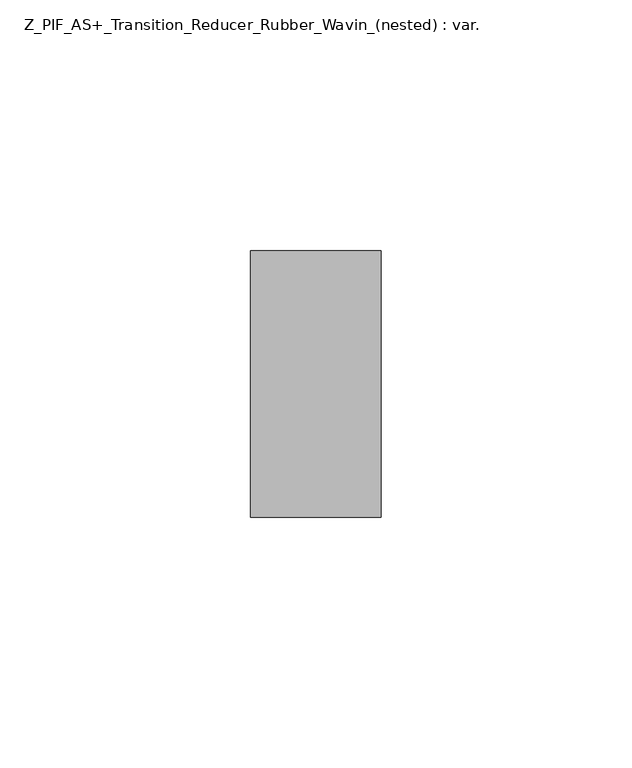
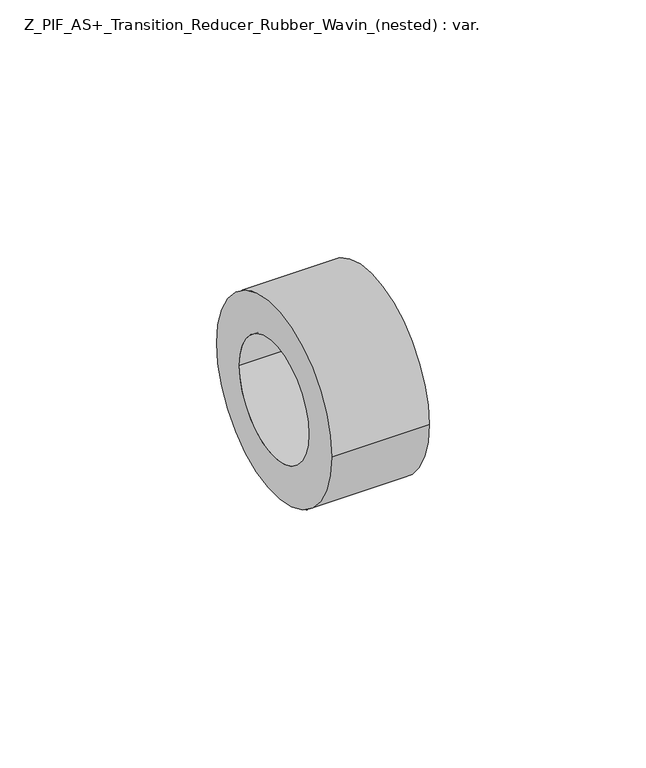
"""IFC4 building model written with IfcOpenShell, lengths in millimetres: pipe fitting geometry, Z_PIF_AS+_Transition_Reducer_Rubber_Wavin_(nested) : var.."""

from ifc_helpers import new_model, si_unit, point, frame, origin, origin_2d, place, context, project, spatial, circle_curve, trimmed, segment, composite_curve, outline, extrude, source, transform, mapped, element, save


def z_pif_as_transition_reducer_rubber_wavin_nested_var_23693647(model_context):
    return source(origin(), model_context, "Body", "SweptSolid", [
        extrude(outline(composite_curve([segment(trimmed(circle_curve(origin_2d(), 26.5), [point((-26.5, 0.0))], [point((26.5, 0.0))], False, "CARTESIAN"), True, "CONTINUOUS"), segment(trimmed(circle_curve(origin_2d(), 26.5), [point((26.5, 0.0))], [point((-26.5, 0.0))], False, "CARTESIAN"), True, "CONTINUOUS")], self_intersect=False), holes=[composite_curve([segment(trimmed(circle_curve(origin_2d(), 16.0), [point((-16.0, 0.0))], [point((16.0, 0.0))], True, "CARTESIAN"), True, "CONTINUOUS"), segment(trimmed(circle_curve(origin_2d(), 16.0), [point((16.0, 0.0))], [point((-16.0, 0.0))], True, "CARTESIAN"), True, "CONTINUOUS")], self_intersect=False)]), frame((0.0, 0.0, 0.0), z_axis=(1.0, 0.0, 0.0), x_axis=(0.0, 1.0, 0.0)), (0.0, 0.0, 1.0), 26.0),
    ])


if __name__ == "__main__":
    model = new_model("IFC4")
    model_context = context("Model", 3, world=origin())
    ifc_project = project(units=[si_unit("LENGTHUNIT", "METRE", prefix="MILLI")], contexts=[model_context])
    site = spatial("IfcSite", under=ifc_project)
    building = spatial("IfcBuilding", under=site)
    placement = place(None, origin())
    z_pif_as_transition_reducer_rubber_wavin_nested_var_shape = z_pif_as_transition_reducer_rubber_wavin_nested_var_23693647(model_context)
    element("IfcPipeFitting", 1, ObjectType="Z_PIF_AS+_Transition_Reducer_Rubber_Wavin_(nested) : var.", at=placement, inside=building, context=model_context, shape_type="MappedRepresentation", body=[
        mapped(z_pif_as_transition_reducer_rubber_wavin_nested_var_shape, transform((0.0, 0.0, 0.0), x_axis=(1.0, 0.0, 0.0), y_axis=(0.0, 1.0, 0.0), z_axis=(0.0, 0.0, 1.0))),
    ])
    save(model, "model.ifc")
